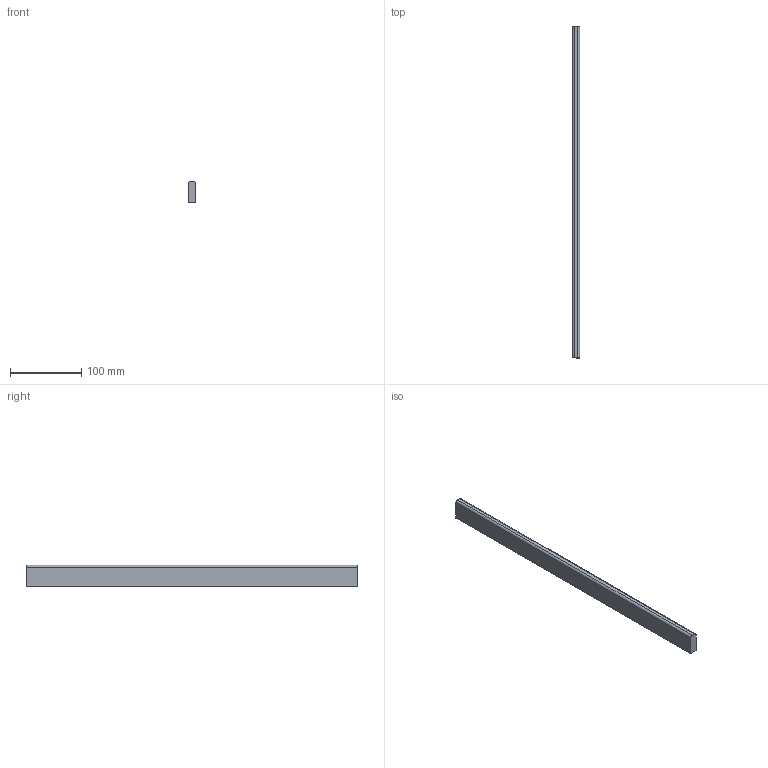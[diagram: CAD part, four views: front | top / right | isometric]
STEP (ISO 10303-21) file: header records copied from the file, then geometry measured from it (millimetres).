
FILE_DESCRIPTION (( 'STEP AP214' ), '1' );
FILE_NAME ('_Seitenreling_SP60700300_RL467,1.step', '2010-09-06T14:52:19', ( 'grass' ), ( '' ), 'SwSTEP 2.0', 'SolidWorks 2010', '' );
FILE_SCHEMA (( 'AUTOMOTIVE_DESIGN' ));
Length unit declared in the file: millimetre
Products named in the file (1): _Seitenreling_SP60700300_RL467,1
Bounding box: 10.5 x 467.1 x 30 mm (x, y, z)
Volume: 145332.2 mm3; surface area: 37254.5 mm2
Topology: 1 solids, 1 shells, 8 faces, 18 edges, 12 vertices
Faces by surface type: plane 6, cylinder 2
Entity records: 260 total; most frequent: DIRECTION 40, CARTESIAN_POINT 39, ORIENTED_EDGE 36, EDGE_CURVE 18, VECTOR 14, LINE 14, AXIS2_PLACEMENT_3D 13, VERTEX_POINT 12
